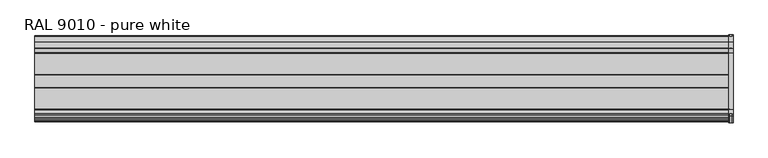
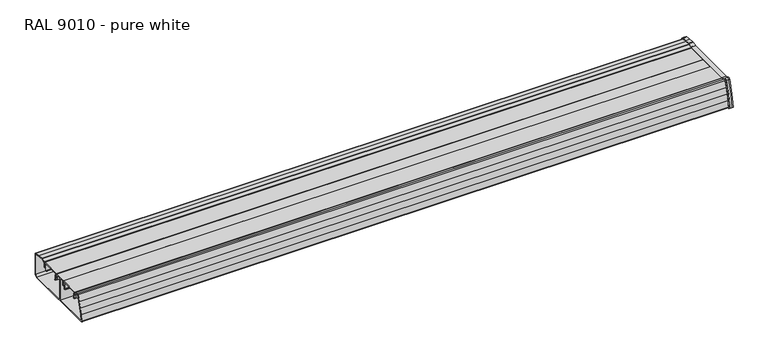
"""IFC4 building model written with IfcOpenShell, lengths in millimetres: proxy geometry, Electrical_Installations_Hager_GBD-Curved-Lid-End-Cap : RAL 9010 - pure white."""

import ifcopenshell
import ifcopenshell.guid

model = None  # the IFC model being written
_history = None  # IfcOwnerHistory: only IFC2X3 demands one
_inside = {}  # id of a spatial element -> (the spatial element, [elements in it])
_under = {}  # id of a project, library or spatial element -> (it, [spatial elements below it])
_declared = {}  # id of a project -> (the project, [libraries it declares])
_typed = {}  # id of a type object -> (the type object, [elements of that type])
_made_of = {}  # id of a material, layer set ... -> (it, [elements and type objects made of it])


def new_model(schema):
    """Start an empty IFC model of exactly this schema.

    Asked for "IFC4X3", IfcOpenShell would pick the latest addendum, in which some entities
    have other attributes; the version numbers below select the first issue.
    IFC2X3 requires an IfcOwnerHistory on every rooted entity: one is made here for all.
    """
    global model, _history
    if schema == "IFC4X3":
        model = ifcopenshell.file(schema_version=(4, 3, 0, 0))
    else:
        model = ifcopenshell.file(schema=schema)
    _inside.clear()
    _under.clear()
    _declared.clear()
    _typed.clear()
    _made_of.clear()
    _history = None
    if model.schema == "IFC2X3":
        org = make("IfcOrganization", Name="unknown")
        user = make(
            "IfcPersonAndOrganization",
            ThePerson=make("IfcPerson", FamilyName="unknown"),
            TheOrganization=org,
        )
        app = make(
            "IfcApplication",
            ApplicationDeveloper=org,
            Version="unknown",
            ApplicationFullName="unknown",
            ApplicationIdentifier="unknown",
        )
        _history = make(
            "IfcOwnerHistory",
            OwningUser=user,
            OwningApplication=app,
            ChangeAction="ADDED",
            CreationDate=0,
        )
    return model


def make(cls, **values):
    """One entity of the class cls with the attributes given. An attribute that is None is left unset."""
    return model.create_entity(
        cls, **{name: value for name, value in values.items() if value is not None}
    )


def rooted(cls, **values):
    """An entity with a GlobalId (a new one), such as an element, a storey or a relation."""
    return make(cls, GlobalId=ifcopenshell.guid.new(), OwnerHistory=_history, **values)


def si_unit(unit_type, name, prefix=None):
    """IfcSIUnit, for example si_unit("LENGTHUNIT", "METRE", prefix="MILLI")."""
    return make("IfcSIUnit", UnitType=unit_type, Prefix=prefix, Name=name)


def assignment(units):
    """IfcUnitAssignment: the units of a project."""
    return None if units is None else make("IfcUnitAssignment", Units=units)


def point(xyz):
    """IfcCartesianPoint."""
    return None if xyz is None else make("IfcCartesianPoint", Coordinates=xyz)


def direction(xyz):
    """IfcDirection."""
    return None if xyz is None else make("IfcDirection", DirectionRatios=xyz)


def frame(location, z_axis=None, x_axis=None):
    """IfcAxis2Placement3D, a coordinate frame: its origin and axes. An axis left out is left unset."""
    return make(
        "IfcAxis2Placement3D",
        Location=point(location),
        Axis=direction(z_axis),
        RefDirection=direction(x_axis),
    )


def frame_2d(location, x_axis=None):
    """IfcAxis2Placement2D, a coordinate frame in the plane: its origin and x axis."""
    return make(
        "IfcAxis2Placement2D", Location=point(location), RefDirection=direction(x_axis)
    )


def origin():
    """The frame at (0, 0, 0) with its axes left unset."""
    return frame((0.0, 0.0, 0.0))


def place(relative_to, where):
    """IfcLocalPlacement: puts the frame where relative to a parent placement (None: the world)."""
    return make(
        "IfcLocalPlacement", PlacementRelTo=relative_to, RelativePlacement=where
    )


def context(
    kind, dimensions, precision=None, world=None, true_north=None, identifier=None
):
    """IfcGeometricRepresentationContext, for example the 3D "Model" context."""
    return make(
        "IfcGeometricRepresentationContext",
        ContextIdentifier=identifier,
        ContextType=kind,
        CoordinateSpaceDimension=dimensions,
        Precision=precision,
        WorldCoordinateSystem=world,
        TrueNorth=true_north,
    )


def project(units=None, contexts=None):
    """IfcProject with its units and contexts."""
    return rooted(
        "IfcProject",
        Name="project",
        RepresentationContexts=contexts,
        UnitsInContext=assignment(units),
    )


def spatial(cls, under=None, at=None, **own):
    """A site, building, storey or space (cls), placed at a placement, below another one or the project."""
    s = rooted(cls, ObjectPlacement=at, **own)
    if under is not None:
        _under.setdefault(under.id(), (under, []))[1].append(s)
    return s


def polyline(points):
    """IfcPolyline through the points."""
    return make("IfcPolyline", Points=[point(p) for p in points])


def circle_curve(where, radius):
    """IfcCircle in the frame where."""
    return make("IfcCircle", Position=where, Radius=radius)


def trimmed(basis, trim1, trim2, sense, master):
    """IfcTrimmedCurve: the piece of a basis curve between two trims."""
    return make(
        "IfcTrimmedCurve",
        BasisCurve=basis,
        Trim1=trim1,
        Trim2=trim2,
        SenseAgreement=sense,
        MasterRepresentation=master,
    )


def segment(curve, same_sense, transition):
    """IfcCompositeCurveSegment."""
    return make(
        "IfcCompositeCurveSegment",
        Transition=transition,
        SameSense=same_sense,
        ParentCurve=curve,
    )


def composite_curve(segments, self_intersect=None):
    """IfcCompositeCurve: segments joined end to end."""
    return make("IfcCompositeCurve", Segments=segments, SelfIntersect=self_intersect)


def outline(outer, holes=None, kind="AREA"):
    """IfcArbitraryClosedProfileDef: a profile drawn as a closed curve; with holes, ...WithVoids."""
    if holes is None:
        return make("IfcArbitraryClosedProfileDef", ProfileType=kind, OuterCurve=outer)
    return make(
        "IfcArbitraryProfileDefWithVoids",
        ProfileType=kind,
        OuterCurve=outer,
        InnerCurves=holes,
    )


def extrude(swept, where, along, depth):
    """IfcExtrudedAreaSolid: the profile swept, set in the frame where, extruded along a direction by depth."""
    return make(
        "IfcExtrudedAreaSolid",
        SweptArea=swept,
        Position=where,
        ExtrudedDirection=direction(along),
        Depth=depth,
    )


def shape(context_of_items, identifier, shape_type, items):
    """IfcShapeRepresentation: the items that make up one representation, for example the "Body"."""
    return make(
        "IfcShapeRepresentation",
        ContextOfItems=context_of_items,
        RepresentationIdentifier=identifier,
        RepresentationType=shape_type,
        Items=items,
    )


def source(mapping_origin, context_of_items, identifier, shape_type, items):
    """IfcRepresentationMap: a shape defined once, which mapped items show again and again."""
    return make(
        "IfcRepresentationMap",
        MappingOrigin=mapping_origin,
        MappedRepresentation=shape(context_of_items, identifier, shape_type, items),
    )


def transform(
    local_origin,
    x_axis=None,
    y_axis=None,
    z_axis=None,
    scale=None,
    scale2=None,
    scale3=None,
    uniform=True,
):
    """IfcCartesianTransformationOperator3D, or its non-uniform kind. x_axis, y_axis, z_axis: its Axis1, 2, 3."""
    if uniform:
        return make(
            "IfcCartesianTransformationOperator3D",
            Axis1=direction(x_axis),
            Axis2=direction(y_axis),
            LocalOrigin=point(local_origin),
            Scale=scale,
            Axis3=direction(z_axis),
        )
    return make(
        "IfcCartesianTransformationOperator3DnonUniform",
        Axis1=direction(x_axis),
        Axis2=direction(y_axis),
        LocalOrigin=point(local_origin),
        Scale=scale,
        Axis3=direction(z_axis),
        Scale2=scale2,
        Scale3=scale3,
    )


def mapped(mapping_source, mapping_target):
    """IfcMappedItem: shows the shape of a source again, moved by a transform."""
    return make(
        "IfcMappedItem", MappingSource=mapping_source, MappingTarget=mapping_target
    )


def made_of(thing, what):
    """Note that an element or type object is made of a material, layer set ...; save() writes the relation."""
    if what is not None:
        _made_of.setdefault(what.id(), (what, []))[1].append(thing)
    return thing


def element(
    cls,
    number,
    at=None,
    inside=None,
    cuts=None,
    type_object=None,
    material=None,
    context=None,
    identifier="Body",
    shape_type=None,
    held_by="IfcProductDefinitionShape",
    body=None,
    shapes=None,
    **own,
):
    """One element of the class cls, such as IfcWall. Its Tag is "e" and its number.

    at: its placement. inside: the storey or other place that contains it. cuts: it is an
    opening in that element (IfcRelVoidsElement). A single representation is given by context,
    identifier, shape_type and body (its items); several are given by shapes. held_by: the class
    of the entity that holds the representations. save() writes the other relations.
    """
    e = rooted(cls, Tag="e%d" % number, ObjectPlacement=at, **own)
    if body is not None:
        shapes = [shape(context, identifier, shape_type, body)]
    if shapes is not None:
        e.Representation = make(held_by, Representations=shapes)
    if inside is not None:
        _inside.setdefault(inside.id(), (inside, []))[1].append(e)
    if cuts is not None:
        rooted(
            "IfcRelVoidsElement", RelatingBuildingElement=cuts, RelatedOpeningElement=e
        )
    if type_object is not None:
        _typed.setdefault(type_object.id(), (type_object, []))[1].append(e)
    return made_of(e, material)


def aggregate(whole, parts):
    """IfcRelAggregates: a whole, such as a stair, and the parts it consists of."""
    return rooted("IfcRelAggregates", RelatingObject=whole, RelatedObjects=parts)


def save(model, path):
    """Write the relations noted so far, then the file.

    IfcRelAggregates (storeys below a building ...), IfcRelContainedInSpatialStructure (elements
    in a storey), IfcRelDefinesByType, IfcRelAssociatesMaterial and IfcRelDeclares: one each for
    every whole, place, type object, material and project.
    """
    for whole, parts in _under.values():
        aggregate(whole, parts)
    for where, things in _inside.values():
        rooted(
            "IfcRelContainedInSpatialStructure",
            RelatedElements=things,
            RelatingStructure=where,
        )
    for kind, things in _typed.values():
        rooted("IfcRelDefinesByType", RelatedObjects=things, RelatingType=kind)
    for what, things in _made_of.values():
        rooted("IfcRelAssociatesMaterial", RelatedObjects=things, RelatingMaterial=what)
    for by, libraries in _declared.values():
        rooted("IfcRelDeclares", RelatingContext=by, RelatedDefinitions=libraries)
    model.write(path)


def plane_surface(at):
    """IfcPlane: the flat surface through the origin of the frame at, square to its z axis."""
    return make("IfcPlane", Position=at)


def cylinder_surface(at, radius):
    """IfcCylindricalSurface: all points at the distance radius from the z axis of the frame at."""
    return make("IfcCylindricalSurface", Position=at, Radius=radius)


def revolved_surface(curve, axis_point, axis_direction):
    """IfcSurfaceOfRevolution: the curve turned about the line through axis_point along axis_direction."""
    return make(
        "IfcSurfaceOfRevolution",
        SweptCurve=make("IfcArbitraryOpenProfileDef", ProfileType="CURVE", Curve=curve),
        AxisPosition=make("IfcAxis1Placement", Location=point(axis_point), Axis=direction(axis_direction)),
    )


def advanced_brep(points, edges, surfaces, faces):
    """IfcAdvancedBrep: a solid bounded by faces that lie on surfaces and meet in shared edges.

    An edge is (start, end): straight between two places in points (the first is 0);
    or (start, end, curve); or (start, end, curve, False) where it runs against its curve.
    A face is (place in surfaces, loops), or (place, loops, False) where it looks against
    its surface's normal. A loop lists edges by number (the first is 1), with a minus sign
    where the edge is run from its end to its start. The first loop is the outer one.
    """
    corners = [point(p) for p in points]
    vertices = [make("IfcVertexPoint", VertexGeometry=c) for c in corners]
    made = []
    for start, end, *more in edges:
        made.append(
            make(
                "IfcEdgeCurve",
                EdgeStart=vertices[start],
                EdgeEnd=vertices[end],
                EdgeGeometry=more[0] if more else make("IfcPolyline", Points=[corners[start], corners[end]]),
                SameSense=more[1] if len(more) > 1 else True,
            )
        )
    hull = []
    for where, loops, *sense in faces:
        bounds = []
        for j, loop in enumerate(loops):
            ring = [make("IfcOrientedEdge", EdgeElement=made[abs(k) - 1], Orientation=k > 0) for k in loop]
            bounds.append(
                make(
                    "IfcFaceOuterBound" if j == 0 else "IfcFaceBound",
                    Bound=make("IfcEdgeLoop", EdgeList=ring),
                    Orientation=True,
                )
            )
        hull.append(make("IfcAdvancedFace", Bounds=bounds, FaceSurface=surfaces[where], SameSense=sense[0] if sense else True))
    return make("IfcAdvancedBrep", Outer=make("IfcClosedShell", CfsFaces=hull))


def ral_9010_pure_white_ef00237f(model_context):
    return source(origin(), model_context, "Body", "SolidModel", [
        extrude(outline(composite_curve([segment(polyline([(-56.2971023, 12.5), (56.2971023, 12.5)]), True, "CONTINUOUS"), segment(trimmed(circle_curve(frame_2d((56.2971023, 11.6099434)), 0.8900566), [point((56.2971023, 12.5))], [point((57.1568309, 11.840307))], False, "CARTESIAN"), True, "CONTINUOUS"), segment(polyline([(57.1568309, 11.840307), (61.5409562, -4.5214711), (64.3769076, -20.8259828)]), True, "CONTINUOUS"), segment(trimmed(circle_curve(frame_2d((63.389468, -20.9977347)), 1.0022653), [point((64.3769076, -20.8259828))], [point((63.389468, -22.0))], False, "CARTESIAN"), True, "CONTINUOUS"), segment(polyline([(63.389468, -22.0), (-63.389468, -22.0)]), True, "CONTINUOUS"), segment(trimmed(circle_curve(frame_2d((-63.389468, -20.9977347)), 1.0022653), [point((-63.389468, -22.0))], [point((-64.3769076, -20.8259828))], False, "CARTESIAN"), True, "CONTINUOUS"), segment(polyline([(-64.3769076, -20.8259828), (-61.5409562, -4.5214711), (-57.1568309, 11.840307)]), True, "CONTINUOUS"), segment(trimmed(circle_curve(frame_2d((-56.2971023, 11.6099434)), 0.8900566), [point((-57.1568309, 11.840307))], [point((-56.2971023, 12.5))], False, "CARTESIAN"), True, "CONTINUOUS")], self_intersect=False)), frame((1417.1037665, 0.0, 0.0), z_axis=(1.0, 0.0, 0.0), x_axis=(0.0, 1.0, 0.0)), (0.0, 0.0, 1.0), 2.5),
        advanced_brep(
        [(1413.1193915, 82.4790938, -27.0), (1413.1193915, -87.950009, -27.0), (1413.1193915, -74.7139057, 28.7218397), (1413.1193915, -71.8616711, 30.0629995), (1413.1193915, -63.0502646, 27.2), (1413.1193915, 52.4374875, 27.2), (1413.1193915, 61.1100703, 30.017893), (1413.1193915, 62.6440579, 30.1926688), (1413.1193915, 74.1080217, 29.1897019), (1413.1193915, 85.7835434, 27.4641372), (1413.1193915, 87.5716104, 25.3259929), (1413.1193915, 87.5716104, -21.9074834), (1417.1037665, -87.950009, -27.0), (1417.1037665, 82.4790938, -27.0), (1417.1037665, 87.5716104, -21.9074834), (1417.1037665, 87.5716104, 25.3259929), (1417.1037665, 85.7835434, 27.4641372), (1417.1037665, 74.1080217, 29.1897019), (1417.1037665, 62.6440579, 30.1926688), (1417.1037665, 61.1100703, 30.017893), (1417.1037665, 52.4374875, 27.2), (1417.1037665, -63.0502646, 27.2), (1417.1037665, -71.8616711, 30.0629995), (1417.1037665, -74.7139057, 28.7218397), (1413.1193915, 86.0170743, 28.9997666), (1417.1037665, 86.0170743, 28.9997666), (1417.1037665, 89.0716104, 25.3713094), (1413.1193915, 89.0716104, 25.3713094), (1419.6037665, 89.0716104, 25.3713094), (1419.6037665, 89.0716104, -22.0), (1410.6037665, 89.0716104, -22.0), (1410.6037665, 89.0716104, 25.3713094), (1419.6037665, 84.0716104, -27.0), (1410.6037665, 84.0716104, -27.0), (1419.6037665, 82.4790938, -27.0), (1419.6037665, -87.950009, -27.0), (1419.6037665, -89.4534138, -27.0), (1417.1037665, -89.4534138, -27.0), (1413.1193915, -89.4534138, -27.0), (1410.6037665, -89.4534138, -27.0), (1410.6037665, -87.950009, -27.0), (1410.6037665, 82.4790938, -27.0), (1417.1037665, -76.0707812, 29.3458662), (1413.1193915, -76.0707812, 29.3458662), (1417.1037665, -71.4543472, 31.5078453), (1413.1193915, -71.4543472, 31.5078453), (1419.6037665, -71.4543472, 31.5078453), (1419.6037665, -62.8126879, 28.7), (1410.6037665, -62.8126879, 28.7), (1410.6037665, -71.4543472, 31.5078453), (1419.6037665, 52.1999109, 28.7), (1410.6037665, 52.1999109, 28.7), (1419.6037665, 60.8066211, 31.4964897), (1417.1037665, 60.8066211, 31.4964897), (1413.1193915, 60.8066211, 31.4964897), (1410.6037665, 60.8066211, 31.4964897), (1417.1037665, 62.4516475, 31.6839168), (1413.1193915, 62.4516475, 31.6839168), (1419.6037665, 62.4516475, 31.6839168), (1419.6037665, 74.2844253, 30.6486828), (1410.6037665, 74.2844253, 30.6486828), (1410.6037665, 62.4516475, 31.6839168), (1410.6037665, 86.0170743, 28.9997666), (1419.6037665, 86.0170743, 28.9997666), (1410.6037665, 87.5716104, -21.9074834), (1410.6037665, 87.5716104, 25.3259929), (1410.6037665, 85.7835434, 27.4641372), (1410.6037665, 74.1080217, 29.1897019), (1410.6037665, 62.6440579, 30.1926688), (1410.6037665, 61.1100703, 30.017893), (1410.6037665, 52.4374875, 27.2), (1410.6037665, -63.0502646, 27.2), (1410.6037665, -71.8616711, 30.0629995), (1410.6037665, -74.7139057, 28.7218397), (1410.6037665, -76.0707812, 29.3458662), (1419.6037665, -76.0707812, 29.3458662), (1419.6037665, -74.7139057, 28.7218397), (1419.6037665, -71.8616711, 30.0629995), (1419.6037665, -63.0502646, 27.2), (1419.6037665, 52.4374875, 27.2), (1419.6037665, 61.1100703, 30.017893), (1419.6037665, 62.6440579, 30.1926688), (1419.6037665, 74.1080217, 29.1897019), (1419.6037665, 85.7835434, 27.4641372), (1419.6037665, 87.5716104, 25.3259929), (1419.6037665, 87.5716104, -21.9074834)],
        [
            (0, 1),
            (1, 2, circle_curve(frame((1413.1193915, 110.3369957, -44.6679083), z_axis=(-1.0, 0.0, 0.0), x_axis=(0.0, 1.0, 0.0)), 199.0725777)),
            (2, 3, circle_curve(frame((1413.1193915, -72.5732824, 27.8728851), z_axis=(-1.0, 0.0, 0.0), x_axis=(0.0, 1.0, 0.0)), 2.3028226)),
            (3, 4),
            (4, 5),
            (5, 6),
            (6, 7, circle_curve(frame((1413.1193915, 62.3065893, 26.3353861), z_axis=(-1.0, 0.0, 0.0), x_axis=(0.0, 1.0, 0.0)), 3.8720169)),
            (7, 8),
            (8, 9),
            (9, 10, circle_curve(frame((1413.1193915, 85.3991961, 25.3259929), z_axis=(-1.0, 0.0, 0.0), x_axis=(0.0, 1.0, 0.0)), 2.1724143)),
            (10, 11),
            (11, 0),
            (12, 13),
            (13, 14),
            (14, 15),
            (15, 16, circle_curve(frame((1417.1037665, 85.3991961, 25.3259929), z_axis=(1.0, 0.0, 0.0), x_axis=(0.0, 1.0, 0.0)), 2.1724143)),
            (16, 17),
            (17, 18),
            (18, 19, circle_curve(frame((1417.1037665, 62.3065893, 26.3353861), z_axis=(1.0, 0.0, 0.0), x_axis=(0.0, 1.0, 0.0)), 3.8720169)),
            (19, 20),
            (20, 21),
            (21, 22),
            (22, 23, circle_curve(frame((1417.1037665, -72.5732824, 27.8728851), z_axis=(1.0, 0.0, 0.0), x_axis=(0.0, 1.0, 0.0)), 2.3028226)),
            (23, 12, circle_curve(frame((1417.1037665, 110.3369957, -44.6679083), z_axis=(1.0, 0.0, 0.0), x_axis=(0.0, 1.0, 0.0)), 199.0725777)),
            (24, 25),
            (25, 26, circle_curve(frame((1417.1037665, 85.3892358, 25.3713094), z_axis=(-1.0, 0.0, 0.0), x_axis=(0.0, 1.0, 0.0)), 3.6823746)),
            (26, 27),
            (27, 24, circle_curve(frame((1413.1193915, 85.3892358, 25.3713094), z_axis=(1.0, 0.0, 0.0), x_axis=(0.0, 1.0, 0.0)), 3.6823746)),
            (26, 28),
            (28, 29),
            (29, 30),
            (30, 31),
            (31, 27),
            (29, 32),
            (32, 33),
            (33, 30),
            (32, 34),
            (34, 13),
            (12, 35),
            (35, 36),
            (36, 37),
            (37, 38),
            (38, 39),
            (39, 40),
            (40, 1),
            (0, 41),
            (41, 33),
            (37, 42, circle_curve(frame((1417.1037665, 106.8832578, -43.8694858), z_axis=(-1.0, 0.0, 0.0), x_axis=(0.0, 1.0, 0.0)), 197.0600623)),
            (42, 43),
            (43, 38, circle_curve(frame((1413.1193915, 106.8832578, -43.8694858), z_axis=(1.0, 0.0, 0.0), x_axis=(0.0, 1.0, 0.0)), 197.0600623)),
            (42, 44, circle_curve(frame((1417.1037665, -72.607181, 27.9597874), z_axis=(-1.0, 0.0, 0.0), x_axis=(0.0, 1.0, 0.0)), 3.7306488)),
            (44, 45),
            (45, 43, circle_curve(frame((1413.1193915, -72.607181, 27.9597874), z_axis=(1.0, 0.0, 0.0), x_axis=(0.0, 1.0, 0.0)), 3.7306488)),
            (44, 46),
            (46, 47),
            (47, 48),
            (48, 49),
            (49, 45),
            (47, 50),
            (50, 51),
            (51, 48),
            (50, 52),
            (52, 53),
            (53, 54),
            (54, 55),
            (55, 51),
            (53, 56, circle_curve(frame((1417.1037665, 62.0897511, 27.5474216), z_axis=(-1.0, 0.0, 0.0), x_axis=(0.0, 1.0, 0.0)), 4.1522959)),
            (56, 57),
            (57, 54, circle_curve(frame((1413.1193915, 62.0897511, 27.5474216), z_axis=(1.0, 0.0, 0.0), x_axis=(0.0, 1.0, 0.0)), 4.1522959)),
            (56, 58),
            (58, 59),
            (59, 60),
            (60, 61),
            (61, 57),
            (24, 62),
            (62, 60),
            (59, 63),
            (63, 25),
            (41, 64),
            (64, 65),
            (65, 66, circle_curve(frame((1410.6037665, 85.3991961, 25.3259929), z_axis=(1.0, 0.0, 0.0), x_axis=(0.0, 1.0, 0.0)), 2.1724143)),
            (66, 67),
            (67, 68),
            (68, 69, circle_curve(frame((1410.6037665, 62.3065893, 26.3353861), z_axis=(1.0, 0.0, 0.0), x_axis=(0.0, 1.0, 0.0)), 3.8720169)),
            (69, 70),
            (70, 71),
            (71, 72),
            (72, 73, circle_curve(frame((1410.6037665, -72.5732824, 27.8728851), z_axis=(1.0, 0.0, 0.0), x_axis=(0.0, 1.0, 0.0)), 2.3028226)),
            (73, 40, circle_curve(frame((1410.6037665, 110.3369957, -44.6679083), z_axis=(1.0, 0.0, 0.0), x_axis=(0.0, 1.0, 0.0)), 199.0725777)),
            (39, 74, circle_curve(frame((1410.6037665, 106.8832578, -43.8694858), z_axis=(-1.0, 0.0, 0.0), x_axis=(0.0, 1.0, 0.0)), 197.0600623)),
            (74, 49, circle_curve(frame((1410.6037665, -72.607181, 27.9597874), z_axis=(-1.0, 0.0, 0.0), x_axis=(0.0, 1.0, 0.0)), 3.7306488)),
            (55, 61, circle_curve(frame((1410.6037665, 62.0897511, 27.5474216), z_axis=(-1.0, 0.0, 0.0), x_axis=(0.0, 1.0, 0.0)), 4.1522959)),
            (62, 31, circle_curve(frame((1410.6037665, 85.3892358, 25.3713094), z_axis=(-1.0, 0.0, 0.0), x_axis=(0.0, 1.0, 0.0)), 3.6823746)),
            (28, 63, circle_curve(frame((1419.6037665, 85.3892358, 25.3713094), z_axis=(1.0, 0.0, 0.0), x_axis=(0.0, 1.0, 0.0)), 3.6823746)),
            (58, 52, circle_curve(frame((1419.6037665, 62.0897511, 27.5474216), z_axis=(1.0, 0.0, 0.0), x_axis=(0.0, 1.0, 0.0)), 4.1522959)),
            (46, 75, circle_curve(frame((1419.6037665, -72.607181, 27.9597874), z_axis=(1.0, 0.0, 0.0), x_axis=(0.0, 1.0, 0.0)), 3.7306488)),
            (75, 36, circle_curve(frame((1419.6037665, 106.8832578, -43.8694858), z_axis=(1.0, 0.0, 0.0), x_axis=(0.0, 1.0, 0.0)), 197.0600623)),
            (35, 76, circle_curve(frame((1419.6037665, 110.3369957, -44.6679083), z_axis=(-1.0, 0.0, 0.0), x_axis=(0.0, 1.0, 0.0)), 199.0725777)),
            (76, 77, circle_curve(frame((1419.6037665, -72.5732824, 27.8728851), z_axis=(-1.0, 0.0, 0.0), x_axis=(0.0, 1.0, 0.0)), 2.3028226)),
            (77, 78),
            (78, 79),
            (79, 80),
            (80, 81, circle_curve(frame((1419.6037665, 62.3065893, 26.3353861), z_axis=(-1.0, 0.0, 0.0), x_axis=(0.0, 1.0, 0.0)), 3.8720169)),
            (81, 82),
            (82, 83),
            (83, 84, circle_curve(frame((1419.6037665, 85.3991961, 25.3259929), z_axis=(-1.0, 0.0, 0.0), x_axis=(0.0, 1.0, 0.0)), 2.1724143)),
            (84, 85),
            (85, 34),
            (11, 64),
            (85, 14),
            (10, 65),
            (84, 15),
            (9, 66),
            (83, 16),
            (70, 5),
            (4, 71),
            (78, 21),
            (20, 79),
            (3, 72),
            (77, 22),
            (2, 73),
            (76, 23),
            (43, 74),
            (75, 42),
            (8, 67),
            (82, 17),
            (7, 68),
            (81, 18),
            (6, 69),
            (80, 19),
        ],
        [
            plane_surface(frame((1413.1193915, 0.0, 0.0), z_axis=(-1.0, 0.0, 0.0), x_axis=(0.0, 0.0, 1.0))),
            plane_surface(frame((1417.1037665, 0.0, 0.0), z_axis=(1.0, 0.0, 0.0), x_axis=(0.0, 0.0, 1.0))),
            cylinder_surface(frame((1413.1193915, 85.3892358, 25.3713094), z_axis=(-1.0, 0.0, 0.0), x_axis=(0.0, 1.0, 0.0)), 3.6823746),
            plane_surface(frame((1413.1193915, 89.0716104, 25.3713094), z_axis=(0.0, 1.0, 0.0), x_axis=(1.0, 0.0, 0.0))),
            plane_surface(frame((1413.1193915, 89.0716104, -22.0), z_axis=(0.0, 0.707106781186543, -0.707106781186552), x_axis=(1.0, 0.0, 0.0))),
            plane_surface(frame((1413.1193915, 84.0716104, -27.0), z_axis=(0.0, 0.0, -1.0), x_axis=(1.0, 0.0, 0.0))),
            cylinder_surface(frame((1413.1193915, 106.8832578, -43.8694858), z_axis=(-1.0, 0.0, 0.0), x_axis=(0.0, 1.0, 0.0)), 197.0600623),
            cylinder_surface(frame((1413.1193915, -72.607181, 27.9597874), z_axis=(-1.0, 0.0, 0.0), x_axis=(0.0, 1.0, 0.0)), 3.7306488),
            plane_surface(frame((1413.1193915, -71.4543472, 31.5078453), z_axis=(0.0, 0.30901699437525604, 0.9510565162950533), x_axis=(1.0, 0.0, 0.0))),
            plane_surface(frame((1413.1193915, -62.8126879, 28.7), z_axis=(0.0, 0.0, 1.0), x_axis=(1.0, 0.0, 0.0))),
            plane_surface(frame((1413.1193915, 52.1999109, 28.7), z_axis=(0.0, -0.30901699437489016, 0.9510565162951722), x_axis=(1.0, 0.0, 0.0))),
            cylinder_surface(frame((1413.1193915, 62.0897511, 27.5474216), z_axis=(-1.0, 0.0, 0.0), x_axis=(0.0, 1.0, 0.0)), 4.1522959),
            plane_surface(frame((1413.1193915, 62.4516475, 31.6839168), z_axis=(0.0, 0.0871557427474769, 0.9961946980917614), x_axis=(1.0, 0.0, 0.0))),
            plane_surface(frame((1413.1193915, 74.2844253, 30.6486828), z_axis=(0.0, 0.1391731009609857, 0.990268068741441), x_axis=(1.0, 0.0, 0.0))),
            plane_surface(frame((1410.6037665, 0.0, 0.0), z_axis=(-1.0, 0.0, 0.0), x_axis=(0.0, 0.0, 1.0))),
            plane_surface(frame((1419.6037665, 0.0, 0.0), z_axis=(1.0, 0.0, 0.0), x_axis=(0.0, 0.0, 1.0))),
            cylinder_surface(frame((1410.6037665, 85.3892358, 25.3713094), z_axis=(-1.0, 0.0, 0.0), x_axis=(0.0, 1.0, 0.0)), 3.6823746),
            plane_surface(frame((1410.6037665, 82.4790938, -27.0), z_axis=(0.0, -0.7071067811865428, 0.7071067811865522), x_axis=(1.0, 0.0, 0.0))),
            plane_surface(frame((1410.6037665, 87.5716104, -21.9074834), z_axis=(0.0, -1.0, 0.0), x_axis=(1.0, 0.0, 0.0))),
            revolved_surface(polyline([(1413.1193915, 87.5716104, 25.3259929), (1410.6037665, 87.5716104, 25.3259929)]), (1410.6037665, 85.3991961, 25.3259929), (1.0, 0.0, 0.0)),
            revolved_surface(polyline([(1419.6037665, 87.5716104, 25.3259929), (1417.1037665, 87.5716104, 25.3259929)]), (1410.6037665, 85.3991961, 25.3259929), (1.0, 0.0, 0.0)),
            plane_surface(frame((1410.6037665, 52.4374875, 27.2), z_axis=(0.0, 0.0, -1.0), x_axis=(1.0, 0.0, 0.0))),
            plane_surface(frame((1410.6037665, -63.0502646, 27.2), z_axis=(0.0, -0.3090169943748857, -0.9510565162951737), x_axis=(1.0, 0.0, 0.0))),
            revolved_surface(polyline([(1413.1193915, -70.2704598, 27.8728851), (1410.6037665, -70.2704598, 27.8728851)]), (1410.6037665, -72.5732824, 27.8728851), (1.0, 0.0, 0.0)),
            revolved_surface(polyline([(1419.6037665, -70.2704598, 27.8728851), (1417.1037665, -70.2704598, 27.8728851)]), (1410.6037665, -72.5732824, 27.8728851), (1.0, 0.0, 0.0)),
            revolved_surface(polyline([(1413.1193915, 309.4095734, -44.6679083), (1410.6037665, 309.4095734, -44.6679083)]), (1410.6037665, 110.3369957, -44.6679083), (1.0, 0.0, 0.0)),
            revolved_surface(polyline([(1419.6037665, 309.4095734, -44.6679083), (1417.1037665, 309.4095734, -44.6679083)]), (1410.6037665, 110.3369957, -44.6679083), (1.0, 0.0, 0.0)),
            cylinder_surface(frame((1410.6037665, 106.8832578, -43.8694858), z_axis=(-1.0, 0.0, 0.0), x_axis=(0.0, 1.0, 0.0)), 197.0600623),
            cylinder_surface(frame((1410.6037665, -72.607181, 27.9597874), z_axis=(-1.0, 0.0, 0.0), x_axis=(0.0, 1.0, 0.0)), 3.7306488),
            plane_surface(frame((1410.6037665, 85.7835434, 27.4641372), z_axis=(0.0, -0.1462052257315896, -0.9892542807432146), x_axis=(1.0, 0.0, 0.0))),
            plane_surface(frame((1410.6037665, 74.1080217, 29.1897019), z_axis=(0.0, -0.08715574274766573, -0.9961946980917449), x_axis=(1.0, 0.0, 0.0))),
            revolved_surface(polyline([(1413.1193915, 66.1786062, 26.3353861), (1410.6037665, 66.1786062, 26.3353861)]), (1410.6037665, 62.3065893, 26.3353861), (1.0, 0.0, 0.0)),
            revolved_surface(polyline([(1419.6037665, 66.1786062, 26.3353861), (1417.1037665, 66.1786062, 26.3353861)]), (1410.6037665, 62.3065893, 26.3353861), (1.0, 0.0, 0.0)),
            plane_surface(frame((1410.6037665, 61.1100703, 30.017893), z_axis=(0.0, 0.3090169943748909, -0.951056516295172), x_axis=(1.0, 0.0, 0.0))),
            cylinder_surface(frame((1410.6037665, 62.0897511, 27.5474216), z_axis=(-1.0, 0.0, 0.0), x_axis=(0.0, 1.0, 0.0)), 4.1522959),
        ],
        [
            (0, [[1, 2, 3, 4, 5, 6, 7, 8, 9, 10, 11, 12]]),
            (1, [[13, 14, 15, 16, 17, 18, 19, 20, 21, 22, 23, 24]]),
            (2, [[25, 26, 27, 28]]),
            (3, [[-27, 29, 30, 31, 32, 33]]),
            (4, [[-31, 34, 35, 36]]),
            (5, [[-35, 37, 38, -13, 39, 40, 41, 42, 43, 44, 45, -1, 46, 47]]),
            (6, [[-42, 48, 49, 50]]),
            (7, [[-49, 51, 52, 53]]),
            (8, [[-52, 54, 55, 56, 57, 58]]),
            (9, [[-56, 59, 60, 61]]),
            (10, [[-60, 62, 63, 64, 65, 66]]),
            (11, [[-64, 67, 68, 69]]),
            (12, [[-68, 70, 71, 72, 73, 74]]),
            (13, [[-25, 75, 76, -72, 77, 78]]),
            (14, [[-32, -36, -47, 79, 80, 81, 82, 83, 84, 85, 86, 87, 88, 89, -44, 90, 91, -57, -61, -66, 92, -73, -76, 93]]),
            (15, [[94, -77, -71, 95, -62, -59, -55, 96, 97, -40, 98, 99, 100, 101, 102, 103, 104, 105, 106, 107, 108, -37, -34, -30]]),
            (16, [[-93, -75, -28, -33]]),
            (16, [[-94, -29, -26, -78]]),
            (17, [[-79, -46, -12, 109]]),
            (17, [[-108, 110, -14, -38]]),
            (18, [[-80, -109, -11, 111]]),
            (18, [[-107, 112, -15, -110]]),
            (19, [[-81, -111, -10, 113]]),
            (20, [[-106, 114, -16, -112]]),
            (21, [[-86, 115, -5, 116]]),
            (21, [[-101, 117, -21, 118]]),
            (22, [[-87, -116, -4, 119]]),
            (22, [[-100, 120, -22, -117]]),
            (23, [[-88, -119, -3, 121]]),
            (24, [[-99, 122, -23, -120]]),
            (25, [[-89, -121, -2, -45]]),
            (26, [[-98, -39, -24, -122]]),
            (27, [[-90, -43, -50, 123]]),
            (27, [[-97, 124, -48, -41]]),
            (28, [[-91, -123, -53, -58]]),
            (28, [[-96, -54, -51, -124]]),
            (29, [[-82, -113, -9, 125]]),
            (29, [[-105, 126, -17, -114]]),
            (30, [[-83, -125, -8, 127]]),
            (30, [[-104, 128, -18, -126]]),
            (31, [[-84, -127, -7, 129]]),
            (32, [[-103, 130, -19, -128]]),
            (33, [[-85, -129, -6, -115]]),
            (33, [[-102, -118, -20, -130]]),
            (34, [[-92, -65, -69, -74]]),
            (34, [[-95, -70, -67, -63]]),
        ],
    ),
        extrude(outline(composite_curve([segment(polyline([(-85.2368553, -25.0), (-6.25, -25.0), (-6.25, 25.0), (-15.95, 25.0), (-15.95, 14.96875), (-20.25, 14.96875), (-20.25, 18.7637258), (-19.25, 18.7637258), (-19.25, 16.3), (-17.75, 16.3), (-17.75, 27.0), (7.25, 27.0), (7.25, 16.3), (8.75, 16.3), (8.75, 18.7441115), (9.75, 18.7441115), (9.75, 14.5), (5.45, 14.5), (5.45, 25.0), (-4.25, 25.0), (-4.25, -25.0), (81.2473088, -25.0), (85.2, -21.0473088), (85.2, 25.0790901), (73.4084992, 26.7822965), (61.8792753, 27.7103781), (54.05, 25.1664923), (54.05, 14.5), (49.75, 14.5), (49.75, 18.7391101), (50.75, 18.7391101), (50.75, 16.3), (52.25, 16.3), (52.25, 26.2703589)]), True, "CONTINUOUS"), segment(trimmed(circle_curve(frame_2d((53.2542649, 26.2703589)), 1.0042649), [point((52.25, 26.2703589))], [point((52.94393, 27.2254715))], False, "CARTESIAN"), True, "CONTINUOUS"), segment(polyline([(52.94393, 27.2254715), (61.1647105, 29.896565)]), True, "CONTINUOUS"), segment(trimmed(circle_curve(frame_2d((61.8535718, 27.776468)), 2.229202), [point((61.1647105, 29.896565))], [point((62.0324399, 29.9984823))], False, "CARTESIAN"), True, "CONTINUOUS"), segment(polyline([(62.0324399, 29.9984823), (73.960524, 29.0382932), (85.7542621, 27.3347636)]), True, "CONTINUOUS"), segment(trimmed(circle_curve(frame_2d((85.4630616, 25.3187476)), 2.0369384), [point((85.7542621, 27.3347636))], [point((87.5, 25.3187476))], False, "CARTESIAN"), True, "CONTINUOUS"), segment(polyline([(87.5, 25.3187476), (87.5, -22.0), (82.5, -27.0), (-85.4371356, -27.0)]), True, "CONTINUOUS"), segment(trimmed(circle_curve(frame_2d((-85.4371356, -24.9109785)), 2.0890215), [point((-85.4371356, -27.0))], [point((-87.5045544, -24.6113283))], False, "CARTESIAN"), True, "CONTINUOUS"), segment(polyline([(-87.5045544, -24.6113283), (-85.4928777, -10.7318848), (-82.665273, 2.5001298), (-78.9366987, 15.5032139), (-74.2325269, 28.6175358)]), True, "CONTINUOUS"), segment(trimmed(circle_curve(frame_2d((-72.2816269, 27.9177383)), 2.0726137), [point((-74.2325269, 28.6175358))], [point((-71.641154, 29.8889111))], False, "CARTESIAN"), True, "CONTINUOUS"), segment(polyline([(-71.641154, 29.8889111), (-63.6327057, 27.2868085)]), True, "CONTINUOUS"), segment(trimmed(circle_curve(frame_2d((-63.9575866, 26.286928)), 1.0513366), [point((-63.6327057, 27.2868085))], [point((-62.90625, 26.286928))], False, "CARTESIAN"), True, "CONTINUOUS"), segment(polyline([(-62.90625, 26.286928), (-62.90625, 16.3), (-61.25, 16.3), (-61.25, 18.7177382), (-60.25, 18.7177382), (-60.25, 14.96875), (-64.55, 14.96875), (-64.55, 25.1664923), (-72.1420805, 27.6333088), (-76.7464574, 14.7971958), (-80.4325779, 1.9421659), (-83.2276507, -11.1376133), (-85.2368553, -25.0)]), True, "CONTINUOUS")], self_intersect=False)), frame((0.0, 0.0, 0.0), z_axis=(1.0, 0.0, 0.0), x_axis=(0.0, 1.0, 0.0)), (0.0, 0.0, 1.0), 1413.1193915),
        extrude(outline(composite_curve([segment(polyline([(-19.317297, 25.7013932), (-61.217297, 25.7013932), (-61.217297, 22.4013932), (-57.767297, 22.4013932), (-57.767297, 10.8013932), (-55.867297, 10.8013932), (-55.867297, 10.0013932), (-58.767297, 10.0013932), (-58.767297, 21.4013932), (-61.5204385, 21.4013932), (-61.5204385, 17.0930522), (-62.5219845, 17.0930522), (-62.5219845, 26.2097868)]), True, "CONTINUOUS"), segment(trimmed(circle_curve(frame_2d((-61.6120226, 26.2097868)), 0.9099619), [point((-62.5219845, 26.2097868))], [point((-61.6120226, 27.1197487))], False, "CARTESIAN"), True, "CONTINUOUS"), segment(polyline([(-61.6120226, 27.1197487), (-19.1379774, 27.1197487)]), True, "CONTINUOUS"), segment(trimmed(circle_curve(frame_2d((-19.1379774, 26.1115683)), 1.0081804), [point((-19.1379774, 27.1197487))], [point((-18.129797, 26.1115683))], False, "CARTESIAN"), True, "CONTINUOUS"), segment(polyline([(-18.129797, 26.1115683), (-18.129797, 17.0930522), (-19.0141556, 17.0930522), (-19.0141556, 21.4013932), (-21.767297, 21.4013932), (-21.767297, 10.0013932), (-24.667297, 10.0013932), (-24.667297, 10.8013932), (-22.767297, 10.8013932), (-22.767297, 22.4013932), (-19.317297, 22.4013932), (-19.317297, 25.7013932)]), True, "CONTINUOUS")], self_intersect=False)), frame((0.0, 0.0, 0.0), z_axis=(1.0, 0.0, 0.0), x_axis=(0.0, 1.0, 0.0)), (0.0, 0.0, 1.0), 1413.1193915),
        extrude(outline(composite_curve([segment(polyline([(50.7405963, 25.7013932), (8.8405963, 25.7013932), (8.8405963, 22.4013932), (12.2905963, 22.4013932), (12.2905963, 10.8013932), (14.1905963, 10.8013932), (14.1905963, 10.0013932), (11.2905963, 10.0013932), (11.2905963, 21.4013932), (8.5374548, 21.4013932), (8.5374548, 17.0930522), (7.5359088, 17.0930522), (7.5359088, 26.2097868)]), True, "CONTINUOUS"), segment(trimmed(circle_curve(frame_2d((8.4458707, 26.2097868)), 0.9099619), [point((7.5359088, 26.2097868))], [point((8.4458707, 27.1197487))], False, "CARTESIAN"), True, "CONTINUOUS"), segment(polyline([(8.4458707, 27.1197487), (50.9199159, 27.1197487)]), True, "CONTINUOUS"), segment(trimmed(circle_curve(frame_2d((50.9199159, 26.1115683)), 1.0081804), [point((50.9199159, 27.1197487))], [point((51.9280963, 26.1115683))], False, "CARTESIAN"), True, "CONTINUOUS"), segment(polyline([(51.9280963, 26.1115683), (51.9280963, 17.0930522), (51.0437378, 17.0930522), (51.0437378, 21.4013932), (48.2905963, 21.4013932), (48.2905963, 10.0013932), (45.3905963, 10.0013932), (45.3905963, 10.8013932), (47.2905963, 10.8013932), (47.2905963, 22.4013932), (50.7405963, 22.4013932), (50.7405963, 25.7013932)]), True, "CONTINUOUS")], self_intersect=False)), frame((0.0, 0.0, 0.0), z_axis=(1.0, 0.0, 0.0), x_axis=(0.0, 1.0, 0.0)), (0.0, 0.0, 1.0), 1413.1193915),
    ])


if __name__ == "__main__":
    model = new_model("IFC4")
    model_context = context("Model", 3, world=origin())
    ifc_project = project(units=[si_unit("LENGTHUNIT", "METRE", prefix="MILLI")], contexts=[model_context])
    site = spatial("IfcSite", under=ifc_project)
    building = spatial("IfcBuilding", under=site)
    placement = place(None, origin())
    ral_9010_pure_white_shape = ral_9010_pure_white_ef00237f(model_context)
    element("IfcBuildingElementProxy", 1, Name="Electrical_Installations_Hager_GBD-Curved-Lid-End-Cap : RAL 9010 - pure white", ObjectType="Electrical_Installations_Hager_GBD-Curved-Lid-End-Cap : RAL 9010 - pure white", at=placement, inside=building, context=model_context, shape_type="MappedRepresentation", body=[
        mapped(ral_9010_pure_white_shape, transform((0.0, 0.0, 0.0), x_axis=(1.0, 0.0, 0.0), y_axis=(0.0, 1.0, 0.0), z_axis=(0.0, 0.0, 1.0))),
    ])
    save(model, "model.ifc")
